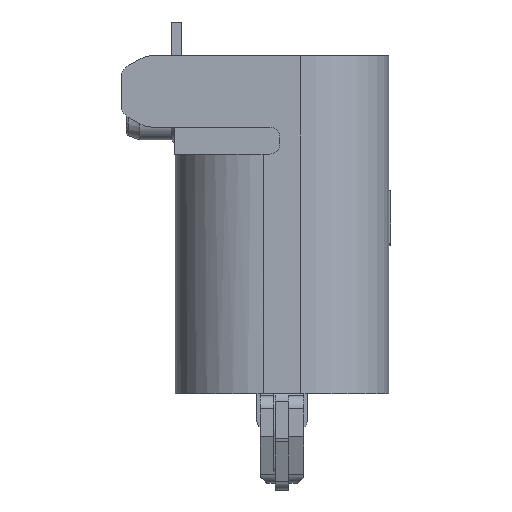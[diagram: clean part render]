
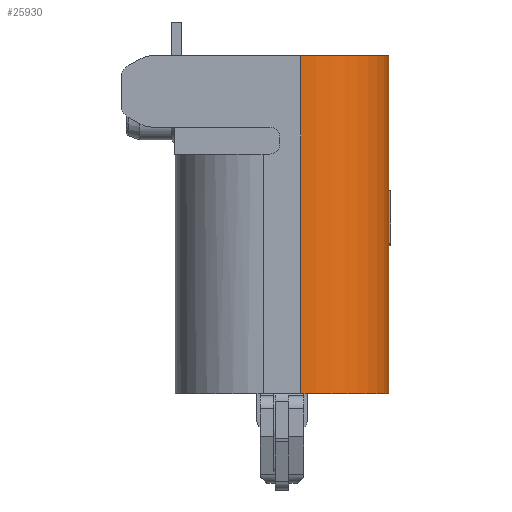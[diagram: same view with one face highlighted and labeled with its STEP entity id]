
A CAD part, front view. The second image highlights one B-rep face of the part: STEP entity #25930.
In plain terms, the highlighted cylindrical face has radius 1.3 mm (diameter 2.6 mm), a partial arc.
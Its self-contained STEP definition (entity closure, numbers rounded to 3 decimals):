
#1029 = CARTESIAN_POINT ( 'NONE',  ( -2.749, 21.793, -4.945 ) ) ;
#1222 = EDGE_CURVE ( 'NONE', #24980, #16283, #20859, .T. ) ;
#1751 = DIRECTION ( 'NONE',  ( 0., 0., -1. ) ) ;
#2782 = CARTESIAN_POINT ( 'NONE',  ( -2.749, 21.793, -9.945 ) ) ;
#3542 = VECTOR ( 'NONE', #25925, 1000. ) ;
#4113 = ORIENTED_EDGE ( 'NONE', *, *, #1222, .F. ) ;
#7436 = ORIENTED_EDGE ( 'NONE', *, *, #13692, .F. ) ;
#9049 = CYLINDRICAL_SURFACE ( 'NONE', #9581, 1.3 ) ;
#9328 = DIRECTION ( 'NONE',  ( 0., 0., -1. ) ) ;
#9581 = AXIS2_PLACEMENT_3D ( 'NONE', #11091, #9328, #20251 ) ;
#10810 = VERTEX_POINT ( 'NONE', #14011 ) ;
#11091 = CARTESIAN_POINT ( 'NONE',  ( -2.749, 23.093, -4.99 ) ) ;
#11120 = CARTESIAN_POINT ( 'NONE',  ( -1.449, 23.093, -4.69 ) ) ;
#11391 = CARTESIAN_POINT ( 'NONE',  ( -2.749, 23.093, -4.945 ) ) ;
#11831 = VECTOR ( 'NONE', #13597, 1000. ) ;
#12110 = EDGE_CURVE ( 'NONE', #16283, #10810, #20274, .T. ) ;
#13597 = DIRECTION ( 'NONE',  ( 0., 0., -1. ) ) ;
#13692 = EDGE_CURVE ( 'NONE', #10810, #24915, #20645, .T. ) ;
#14011 = CARTESIAN_POINT ( 'NONE',  ( -1.449, 23.093, -9.945 ) ) ;
#14377 = AXIS2_PLACEMENT_3D ( 'NONE', #11391, #17501, #26383 ) ;
#16283 = VERTEX_POINT ( 'NONE', #22447 ) ;
#17469 = AXIS2_PLACEMENT_3D ( 'NONE', #24138, #1751, #23711 ) ;
#17501 = DIRECTION ( 'NONE',  ( 0., 0., 1. ) ) ;
#20251 = DIRECTION ( 'NONE',  ( 0., 1., 0. ) ) ;
#20274 = LINE ( 'NONE', #11120, #11831 ) ;
#20645 = CIRCLE ( 'NONE', #17469, 1.3 ) ;
#20808 = ORIENTED_EDGE ( 'NONE', *, *, #12110, .F. ) ;
#20859 = CIRCLE ( 'NONE', #14377, 1.3 ) ;
#22141 = FACE_OUTER_BOUND ( 'NONE', #25268, .T. ) ;
#22424 = ORIENTED_EDGE ( 'NONE', *, *, #23752, .T. ) ;
#22447 = CARTESIAN_POINT ( 'NONE',  ( -1.449, 23.093, -4.945 ) ) ;
#23711 = DIRECTION ( 'NONE',  ( 0., 1., 0. ) ) ;
#23752 = EDGE_CURVE ( 'NONE', #24980, #24915, #24021, .T. ) ;
#24021 = LINE ( 'NONE', #28401, #3542 ) ;
#24138 = CARTESIAN_POINT ( 'NONE',  ( -2.749, 23.093, -9.945 ) ) ;
#24915 = VERTEX_POINT ( 'NONE', #2782 ) ;
#24980 = VERTEX_POINT ( 'NONE', #1029 ) ;
#25268 = EDGE_LOOP ( 'NONE', ( #22424, #7436, #20808, #4113 ) ) ;
#25925 = DIRECTION ( 'NONE',  ( 0., 0., -1. ) ) ;
#25930 = ADVANCED_FACE ( 'NONE', ( #22141 ), #9049, .T. ) ;
#26383 = DIRECTION ( 'NONE',  ( 0., -1., 0. ) ) ;
#28401 = CARTESIAN_POINT ( 'NONE',  ( -2.749, 21.793, -4.99 ) ) ;
